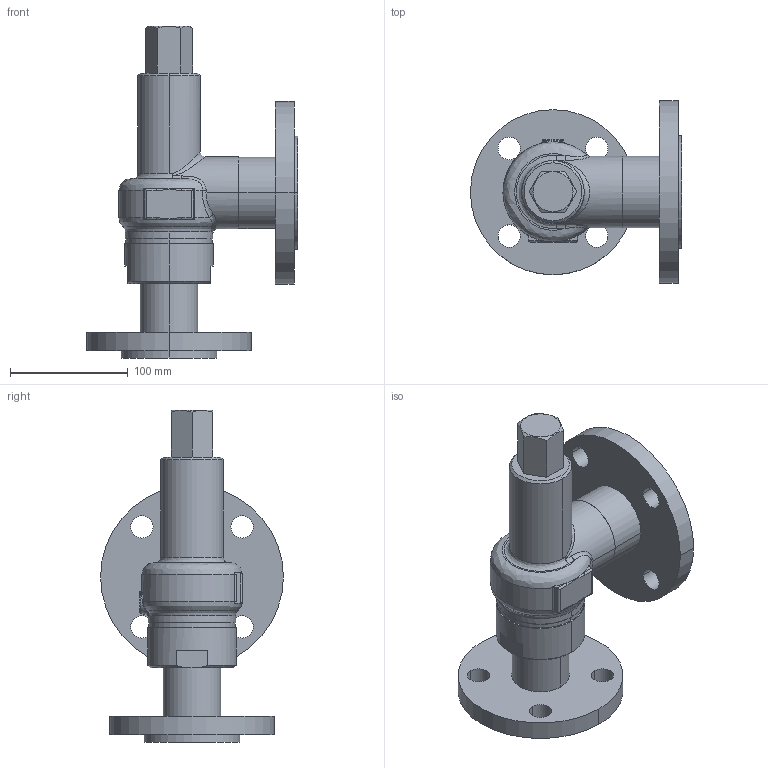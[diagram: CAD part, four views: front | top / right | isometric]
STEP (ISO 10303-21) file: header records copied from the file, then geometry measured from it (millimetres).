
FILE_DESCRIPTION( (''), '2;1');
FILE_NAME ('PC1027.9568.AL-32 40A_5864.stp','2025-07-28T13:28:36',(''),(''),'spGate 19.8.4 (****-****-****-****)','','');
FILE_SCHEMA (('AUTOMOTIVE_DESIGN'));
Length unit declared in the file: millimetre
Products named in the file (2): Assembly; AL-32 40A-3D
Assembly tree (1 placements, depth 2):
  Assembly
    AL-32 40A-3D
Bounding box: 179 x 155 x 281.5 mm (x, y, z)
Volume: 1313449.3 mm3; surface area: 161245.3 mm2
Topology: 1 solids, 1 shells, 129 faces, 323 edges, 206 vertices
Faces by surface type: cylinder 54, bspline 41, plane 34
Entity records: 8551 total; most frequent: CARTESIAN_POINT 3168, ORIENTED_EDGE 646, DIRECTION 520, COLOUR_RGB 453, PRESENTATION_STYLE_ASSIGNMENT 453, STYLED_ITEM 453, EDGE_CURVE 323, DRAUGHTING_PRE_DEFINED_CURVE_FONT 323
